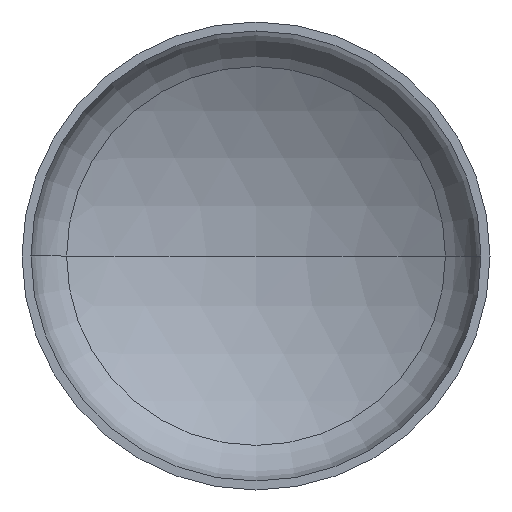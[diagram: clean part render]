
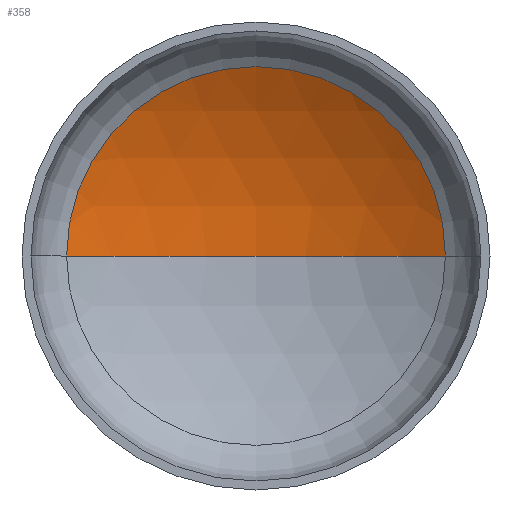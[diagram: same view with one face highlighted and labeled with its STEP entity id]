
A CAD part, front view. The second image highlights one B-rep face of the part: STEP entity #358.
In plain terms, the highlighted spherical face has radius 1040 mm.
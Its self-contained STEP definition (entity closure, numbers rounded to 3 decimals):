
#13 = CARTESIAN_POINT ( 'NONE',  ( 526.19, 247.512, 0. ) ) ;
#29 = AXIS2_PLACEMENT_3D ( 'NONE', #279, #278, #277 ) ;
#30 = AXIS2_PLACEMENT_3D ( 'NONE', #273, #269, #134 ) ;
#31 = AXIS2_PLACEMENT_3D ( 'NONE', #284, #289, #287 ) ;
#55 = EDGE_CURVE ( 'NONE', #392, #406, #104, .T. ) ;
#57 = EDGE_CURVE ( 'NONE', #409, #392, #182, .T. ) ;
#58 = EDGE_CURVE ( 'NONE', #409, #406, #333, .T. ) ;
#104 = CIRCLE ( 'NONE', #31, 526.19 ) ;
#121 = DIRECTION ( 'NONE',  ( 0., 0., -1. ) ) ;
#122 = CARTESIAN_POINT ( 'NONE',  ( 0., -649.552, 0. ) ) ;
#123 = CARTESIAN_POINT ( 'NONE',  ( -526.19, 247.512, 0. ) ) ;
#134 = DIRECTION ( 'NONE',  ( -1., 0., 0. ) ) ;
#141 = DIRECTION ( 'NONE',  ( -1., 0., 0. ) ) ;
#182 = CIRCLE ( 'NONE', #30, 1040. ) ;
#200 = AXIS2_PLACEMENT_3D ( 'NONE', #122, #121, #141 ) ;
#218 = EDGE_LOOP ( 'NONE', ( #236, #308, #351 ) ) ;
#236 = ORIENTED_EDGE ( 'NONE', *, *, #58, .F. ) ;
#269 = DIRECTION ( 'NONE',  ( 0., 0., -1. ) ) ;
#273 = CARTESIAN_POINT ( 'NONE',  ( 0., -649.552, 0. ) ) ;
#277 = DIRECTION ( 'NONE',  ( 1., 0., 0. ) ) ;
#278 = DIRECTION ( 'NONE',  ( 0., 0., 1. ) ) ;
#279 = CARTESIAN_POINT ( 'NONE',  ( 0., -649.552, 0. ) ) ;
#284 = CARTESIAN_POINT ( 'NONE',  ( 0., 247.512, 0. ) ) ;
#287 = DIRECTION ( 'NONE',  ( 1., 0., 0. ) ) ;
#289 = DIRECTION ( 'NONE',  ( 0., -1., 0. ) ) ;
#300 = CARTESIAN_POINT ( 'NONE',  ( 0., 390.448, 0. ) ) ;
#305 = FACE_OUTER_BOUND ( 'NONE', #218, .T. ) ;
#308 = ORIENTED_EDGE ( 'NONE', *, *, #57, .T. ) ;
#333 = CIRCLE ( 'NONE', #29, 1040. ) ;
#346 = SPHERICAL_SURFACE ( 'NONE', #200, 1040. ) ;
#351 = ORIENTED_EDGE ( 'NONE', *, *, #55, .T. ) ;
#358 = ADVANCED_FACE ( 'NONE', ( #305 ), #346, .F. ) ;
#392 = VERTEX_POINT ( 'NONE', #13 ) ;
#406 = VERTEX_POINT ( 'NONE', #123 ) ;
#409 = VERTEX_POINT ( 'NONE', #300 ) ;
